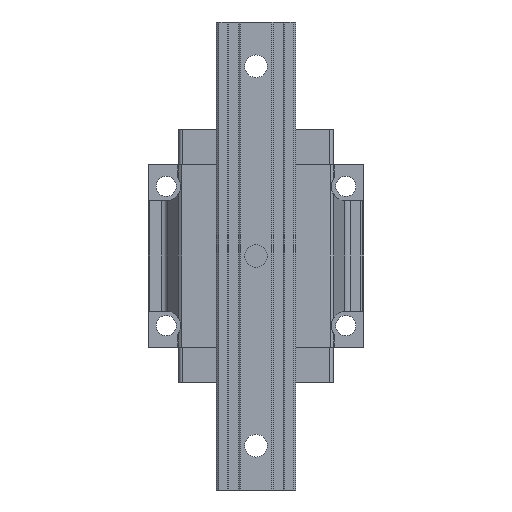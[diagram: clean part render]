
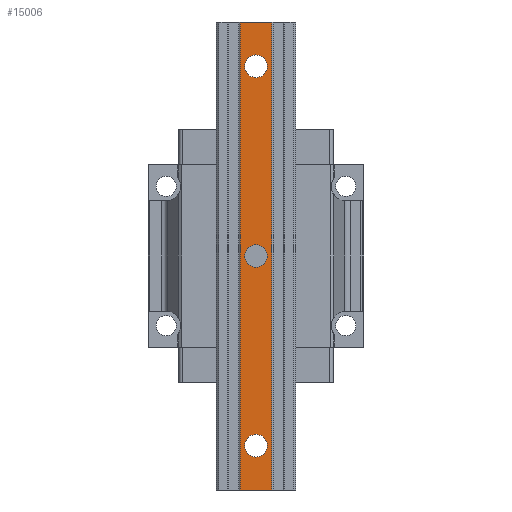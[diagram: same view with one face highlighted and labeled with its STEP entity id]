
A CAD part, front view. The second image highlights one B-rep face of the part: STEP entity #15006.
In plain terms, the highlighted planar face has unit normal (0, -1, 0).
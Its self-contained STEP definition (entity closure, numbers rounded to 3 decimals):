
#13843=DIRECTION('',(1.,0.,0.));
#13844=VECTOR('',#13843,25.);
#13845=CARTESIAN_POINT('',(-12.5,-53.,-185.));
#13846=LINE('',#13845,#13844);
#14026=DIRECTION('',(0.,0.,1.));
#14027=VECTOR('',#14026,370.);
#14028=CARTESIAN_POINT('',(12.5,-53.,-185.));
#14029=LINE('',#14028,#14027);
#14030=DIRECTION('',(0.,0.,1.));
#14031=VECTOR('',#14030,370.);
#14032=CARTESIAN_POINT('',(-12.5,-53.,-185.));
#14033=LINE('',#14032,#14031);
#14034=CARTESIAN_POINT('',(0.,-53.,0.));
#14035=DIRECTION('',(0.,1.,0.));
#14036=DIRECTION('',(-1.,0.,0.));
#14037=AXIS2_PLACEMENT_3D('',#14034,#14035,#14036);
#14039=CARTESIAN_POINT('',(0.,-53.,0.));
#14040=DIRECTION('',(0.,1.,0.));
#14041=DIRECTION('',(1.,0.,0.));
#14042=AXIS2_PLACEMENT_3D('',#14039,#14040,#14041);
#14044=CARTESIAN_POINT('',(0.,-53.,150.));
#14045=DIRECTION('',(0.,1.,0.));
#14046=DIRECTION('',(-1.,0.,0.));
#14047=AXIS2_PLACEMENT_3D('',#14044,#14045,#14046);
#14049=CARTESIAN_POINT('',(0.,-53.,150.));
#14050=DIRECTION('',(0.,1.,0.));
#14051=DIRECTION('',(1.,0.,0.));
#14052=AXIS2_PLACEMENT_3D('',#14049,#14050,#14051);
#14054=CARTESIAN_POINT('',(0.,-53.,-150.));
#14055=DIRECTION('',(0.,1.,0.));
#14056=DIRECTION('',(-1.,0.,0.));
#14057=AXIS2_PLACEMENT_3D('',#14054,#14055,#14056);
#14059=CARTESIAN_POINT('',(0.,-53.,-150.));
#14060=DIRECTION('',(0.,1.,0.));
#14061=DIRECTION('',(1.,0.,0.));
#14062=AXIS2_PLACEMENT_3D('',#14059,#14060,#14061);
#14217=DIRECTION('',(1.,0.,0.));
#14218=VECTOR('',#14217,25.);
#14219=CARTESIAN_POINT('',(-12.5,-53.,185.));
#14220=LINE('',#14219,#14218);
#14444=CARTESIAN_POINT('',(-12.5,-53.,-185.));
#14445=VERTEX_POINT('',#14444);
#14446=CARTESIAN_POINT('',(12.5,-53.,-185.));
#14447=VERTEX_POINT('',#14446);
#14520=CARTESIAN_POINT('',(-12.5,-53.,185.));
#14521=VERTEX_POINT('',#14520);
#14522=CARTESIAN_POINT('',(12.5,-53.,185.));
#14523=VERTEX_POINT('',#14522);
#14558=CARTESIAN_POINT('',(-9.,-53.,0.));
#14559=CARTESIAN_POINT('',(9.,-53.,0.));
#14560=VERTEX_POINT('',#14558);
#14561=VERTEX_POINT('',#14559);
#14562=CARTESIAN_POINT('',(-9.,-53.,150.));
#14563=CARTESIAN_POINT('',(9.,-53.,150.));
#14564=VERTEX_POINT('',#14562);
#14565=VERTEX_POINT('',#14563);
#14566=CARTESIAN_POINT('',(-9.,-53.,-150.));
#14567=CARTESIAN_POINT('',(9.,-53.,-150.));
#14568=VERTEX_POINT('',#14566);
#14569=VERTEX_POINT('',#14567);
#14975=CARTESIAN_POINT('',(-12.5,-53.,-185.));
#14976=DIRECTION('',(0.,-1.,0.));
#14977=DIRECTION('',(1.,0.,0.));
#14978=AXIS2_PLACEMENT_3D('',#14975,#14976,#14977);
#14979=PLANE('',#14978);
#14980=ORIENTED_EDGE('',*,*,#14649,.F.);
#14982=ORIENTED_EDGE('',*,*,#14981,.T.);
#14984=ORIENTED_EDGE('',*,*,#14983,.T.);
#14985=ORIENTED_EDGE('',*,*,#14967,.F.);
#14986=EDGE_LOOP('',(#14980,#14982,#14984,#14985));
#14987=FACE_OUTER_BOUND('',#14986,.F.);
#14989=ORIENTED_EDGE('',*,*,#14988,.F.);
#14991=ORIENTED_EDGE('',*,*,#14990,.F.);
#14992=EDGE_LOOP('',(#14989,#14991));
#14993=FACE_BOUND('',#14992,.F.);
#14995=ORIENTED_EDGE('',*,*,#14994,.F.);
#14997=ORIENTED_EDGE('',*,*,#14996,.F.);
#14998=EDGE_LOOP('',(#14995,#14997));
#14999=FACE_BOUND('',#14998,.F.);
#15001=ORIENTED_EDGE('',*,*,#15000,.F.);
#15003=ORIENTED_EDGE('',*,*,#15002,.F.);
#15004=EDGE_LOOP('',(#15001,#15003));
#15005=FACE_BOUND('',#15004,.F.);
#15006=ADVANCED_FACE('',(#14987,#14993,#14999,#15005),#14979,.T.);
#14038=CIRCLE('',#14037,9.);
#14043=CIRCLE('',#14042,9.);
#14048=CIRCLE('',#14047,9.);
#14053=CIRCLE('',#14052,9.);
#14058=CIRCLE('',#14057,9.);
#14063=CIRCLE('',#14062,9.);
#14649=EDGE_CURVE('',#14445,#14447,#13846,.T.);
#14967=EDGE_CURVE('',#14447,#14523,#14029,.T.);
#14981=EDGE_CURVE('',#14445,#14521,#14033,.T.);
#14983=EDGE_CURVE('',#14521,#14523,#14220,.T.);
#14988=EDGE_CURVE('',#14560,#14561,#14038,.T.);
#14990=EDGE_CURVE('',#14561,#14560,#14043,.T.);
#14994=EDGE_CURVE('',#14564,#14565,#14048,.T.);
#14996=EDGE_CURVE('',#14565,#14564,#14053,.T.);
#15000=EDGE_CURVE('',#14568,#14569,#14058,.T.);
#15002=EDGE_CURVE('',#14569,#14568,#14063,.T.);
